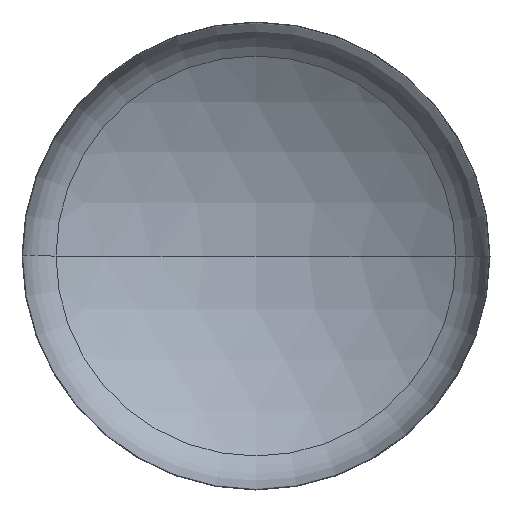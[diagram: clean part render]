
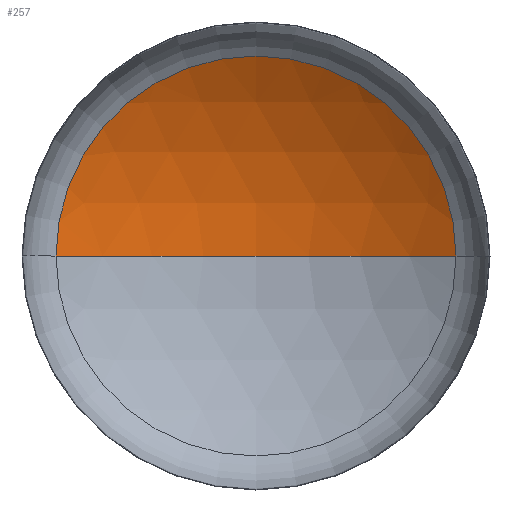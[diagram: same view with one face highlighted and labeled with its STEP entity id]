
A CAD part, front view. The second image highlights one B-rep face of the part: STEP entity #257.
In plain terms, the highlighted spherical face has radius 6000 mm.
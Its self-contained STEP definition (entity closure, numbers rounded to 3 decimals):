
#7 = DIRECTION ( 'NONE',  ( 0., 0., -1. ) ) ;
#24 = AXIS2_PLACEMENT_3D ( 'NONE', #371, #7, #380 ) ;
#37 = VERTEX_POINT ( 'NONE', #282 ) ;
#44 = AXIS2_PLACEMENT_3D ( 'NONE', #294, #293, #286 ) ;
#48 = AXIS2_PLACEMENT_3D ( 'NONE', #350, #292, #290 ) ;
#51 = AXIS2_PLACEMENT_3D ( 'NONE', #336, #331, #330 ) ;
#68 = EDGE_CURVE ( 'NONE', #37, #172, #155, .T. ) ;
#69 = EDGE_CURVE ( 'NONE', #75, #37, #410, .T. ) ;
#70 = EDGE_CURVE ( 'NONE', #75, #172, #308, .T. ) ;
#75 = VERTEX_POINT ( 'NONE', #288 ) ;
#87 = ORIENTED_EDGE ( 'NONE', *, *, #70, .F. ) ;
#98 = SPHERICAL_SURFACE ( 'NONE', #24, 6000. ) ;
#155 = CIRCLE ( 'NONE', #51, 3204.954 ) ;
#172 = VERTEX_POINT ( 'NONE', #270 ) ;
#194 = EDGE_LOOP ( 'NONE', ( #87, #226, #205 ) ) ;
#205 = ORIENTED_EDGE ( 'NONE', *, *, #68, .T. ) ;
#226 = ORIENTED_EDGE ( 'NONE', *, *, #69, .T. ) ;
#257 = ADVANCED_FACE ( 'NONE', ( #284 ), #98, .F. ) ;
#270 = CARTESIAN_POINT ( 'NONE',  ( -3204.954, 1001.419, 0. ) ) ;
#282 = CARTESIAN_POINT ( 'NONE',  ( 3204.954, 1001.419, 0. ) ) ;
#284 = FACE_OUTER_BOUND ( 'NONE', #194, .T. ) ;
#286 = DIRECTION ( 'NONE',  ( 1., 0., 0. ) ) ;
#288 = CARTESIAN_POINT ( 'NONE',  ( 0., 1929.114, 0. ) ) ;
#290 = DIRECTION ( 'NONE',  ( -1., 0., 0. ) ) ;
#292 = DIRECTION ( 'NONE',  ( 0., 0., -1. ) ) ;
#293 = DIRECTION ( 'NONE',  ( 0., 0., 1. ) ) ;
#294 = CARTESIAN_POINT ( 'NONE',  ( 0., -4070.886, 0. ) ) ;
#308 = CIRCLE ( 'NONE', #44, 6000. ) ;
#330 = DIRECTION ( 'NONE',  ( 1., 0., 0. ) ) ;
#331 = DIRECTION ( 'NONE',  ( 0., -1., 0. ) ) ;
#336 = CARTESIAN_POINT ( 'NONE',  ( 0., 1001.419, 0. ) ) ;
#350 = CARTESIAN_POINT ( 'NONE',  ( 0., -4070.886, 0. ) ) ;
#371 = CARTESIAN_POINT ( 'NONE',  ( 0., -4070.886, 0. ) ) ;
#380 = DIRECTION ( 'NONE',  ( -1., 0., 0. ) ) ;
#410 = CIRCLE ( 'NONE', #48, 6000. ) ;
